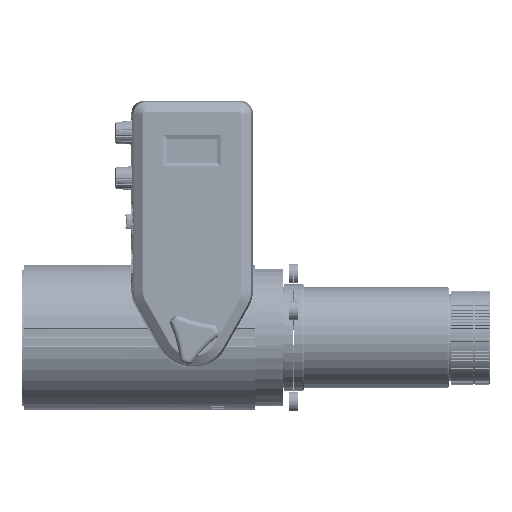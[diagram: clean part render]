
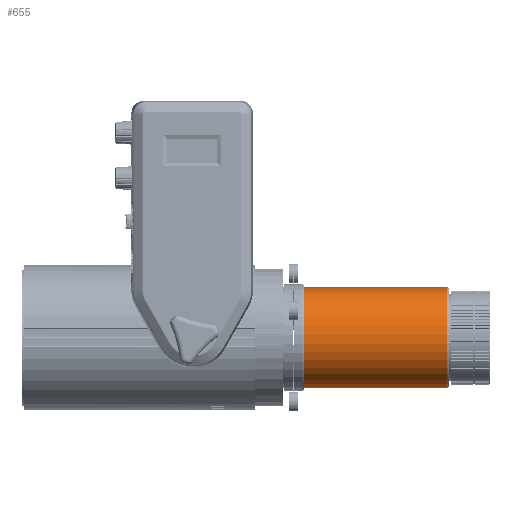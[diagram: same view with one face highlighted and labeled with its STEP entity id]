
A CAD part, top view. The second image highlights one B-rep face of the part: STEP entity #655.
In plain terms, the highlighted cylindrical face has radius 31 mm (diameter 62 mm), a full revolution.
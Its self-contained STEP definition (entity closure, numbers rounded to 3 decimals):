
#655 = ADVANCED_FACE ( 'NONE', ( #164744, #50932 ), #10693, .T. ) ;
#1336 = CIRCLE ( 'NONE', #39737, 31. ) ;
#5456 = ORIENTED_EDGE ( 'NONE', *, *, #19613, .T. ) ;
#10693 = CYLINDRICAL_SURFACE ( 'NONE', #158566, 31. ) ;
#19613 = EDGE_CURVE ( 'NONE', #97125, #97125, #134552, .T. ) ;
#30345 = EDGE_CURVE ( 'NONE', #158570, #158570, #1336, .T. ) ;
#39737 = AXIS2_PLACEMENT_3D ( 'NONE', #51615, #89304, #92684 ) ;
#48395 = DIRECTION ( 'NONE',  ( 0., 0., 1. ) ) ;
#50932 = FACE_OUTER_BOUND ( 'NONE', #163255, .T. ) ;
#51615 = CARTESIAN_POINT ( 'NONE',  ( 176.5, 0., 0. ) ) ;
#66196 = ORIENTED_EDGE ( 'NONE', *, *, #30345, .F. ) ;
#73212 = CARTESIAN_POINT ( 'NONE',  ( 0., 0., 0. ) ) ;
#89304 = DIRECTION ( 'NONE',  ( -1., 0., 0. ) ) ;
#92684 = DIRECTION ( 'NONE',  ( 0., 0., 1. ) ) ;
#93550 = CARTESIAN_POINT ( 'NONE',  ( 176.5, 0., 31. ) ) ;
#97125 = VERTEX_POINT ( 'NONE', #121951 ) ;
#98352 = DIRECTION ( 'NONE',  ( -1., 0., 0. ) ) ;
#115076 = DIRECTION ( 'NONE',  ( -1., 0., 0. ) ) ;
#118048 = AXIS2_PLACEMENT_3D ( 'NONE', #162569, #98352, #149723 ) ;
#121951 = CARTESIAN_POINT ( 'NONE',  ( 264.5, 0., 31. ) ) ;
#134552 = CIRCLE ( 'NONE', #118048, 31. ) ;
#149723 = DIRECTION ( 'NONE',  ( 0., 0., 1. ) ) ;
#158566 = AXIS2_PLACEMENT_3D ( 'NONE', #73212, #115076, #48395 ) ;
#158570 = VERTEX_POINT ( 'NONE', #93550 ) ;
#162569 = CARTESIAN_POINT ( 'NONE',  ( 264.5, 0., 0. ) ) ;
#163255 = EDGE_LOOP ( 'NONE', ( #66196 ) ) ;
#164744 = FACE_OUTER_BOUND ( 'NONE', #165324, .T. ) ;
#165324 = EDGE_LOOP ( 'NONE', ( #5456 ) ) ;
